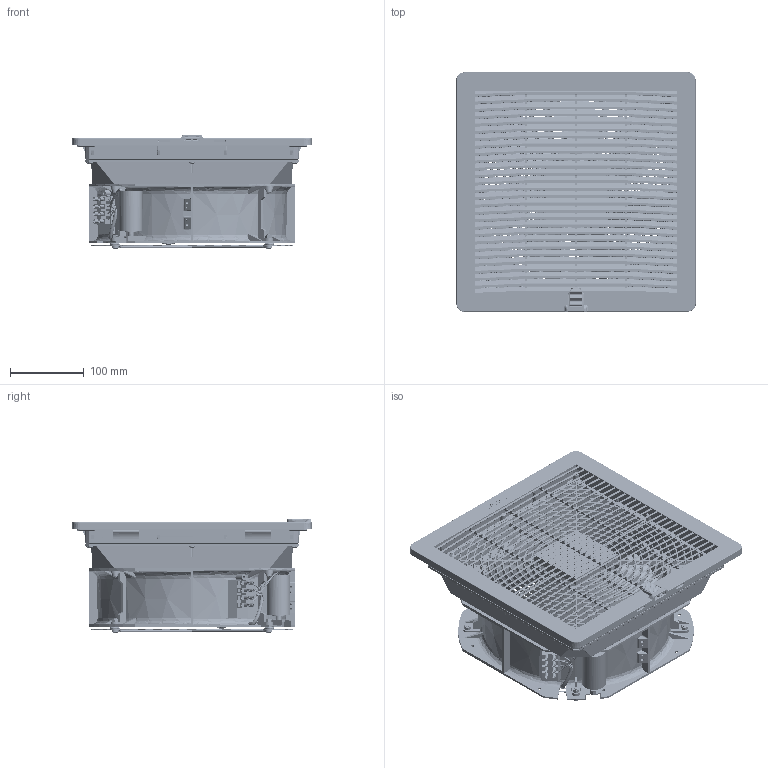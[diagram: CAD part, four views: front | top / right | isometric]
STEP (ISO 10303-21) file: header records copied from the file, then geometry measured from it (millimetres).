
FILE_DESCRIPTION (( 'STEP AP203' ), '1' );
FILE_NAME ('TPA.08.0031.00.00.0捘.STEP', '2022-06-30T12:19:26', ( '' ), ( '' ), 'SwSTEP 2.0', 'SolidWorks 2020', '' );
FILE_SCHEMA (( 'CONFIG_CONTROL_DESIGN' ));
Length unit declared in the file: millimetre
Products named in the file (20): TPA.08.0015.01.03.0; 5 DIN 6798 A Zinc; 41752709; TPA.08.0023.02.00.0; RKF20_-_BASE_REV.5; TPA.08.0023.01.02.0; TPA.08.0031.00.00.0捘; RKF20_-_GASKET_REV.4; M5 DIN 934 cl.5,0 Zinc_straight; 5 DIN 9021  Zinc; TPA.08.0015.03.00.0_81x81; 5 DIN 125 A Zinc; TPA.08.0015.01.01.0; M4x16 DIN 7985 PH cl4,8 Zinc_stright; TPA.08.0031.03.00.0; M4 DIN 934 cl.5,0 Zinc_straight; M5x16 DIN 7985 PH cl.5,8 Zinc_stright; 4 DIN 6798 Zinc; 7102000016; 3,5x13 DIN 7981 C PZ Zinc_straight
Assembly tree (50 placements, depth 3):
  TPA.08.0031.00.00.0捘
    TPA.08.0023.02.00.0
      RKF20_-_BASE_REV.5
      RKF20_-_GASKET_REV.4
    TPA.08.0023.01.02.0
    TPA.08.0015.03.00.0_81x81
    TPA.08.0015.01.03.0
    TPA.08.0015.01.01.0
    TPA.08.0031.03.00.0
    41752709
    7102000016
    3,5x13 DIN 7981 C PZ Zinc_straight  x8
    5 DIN 125 A Zinc  x4
    4 DIN 6798 Zinc  x4
    M4x16 DIN 7985 PH cl4,8 Zinc_stright  x4
    M4 DIN 934 cl.5,0 Zinc_straight  x4
    5 DIN 9021  Zinc  x4
    5 DIN 6798 A Zinc  x4
    M5x16 DIN 7985 PH cl.5,8 Zinc_stright  x4
    M5 DIN 934 cl.5,0 Zinc_straight  x4
Bounding box: 325 x 325 x 154.91 mm (x, y, z)
Volume: 958016 mm3; surface area: 1207357.9 mm2
Topology: 71 solids, 73 shells, 9615 faces, 27778 edges, 18013 vertices
Faces by surface type: plane 4240, cylinder 2983, bspline 1069, cone 729, torus 504, sphere 90
Entity records: 398353 total; most frequent: CARTESIAN_POINT 192327, ORIENTED_EDGE 50620, DIRECTION 29946, EDGE_CURVE 25316, VERTEX_POINT 16600, B_SPLINE_CURVE_WITH_KNOTS 13513, AXIS2_PLACEMENT_3D 10472, EDGE_LOOP 9464
